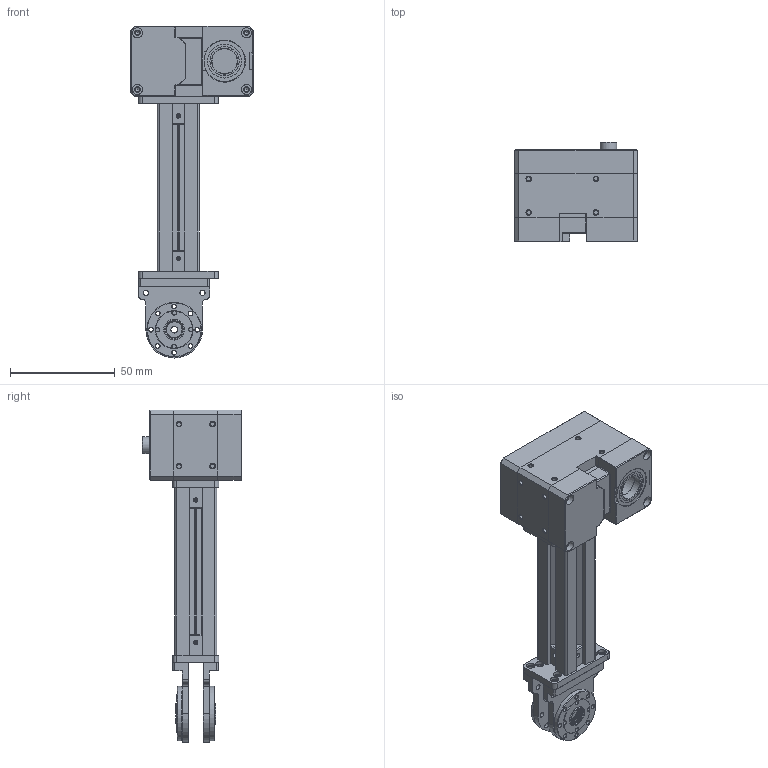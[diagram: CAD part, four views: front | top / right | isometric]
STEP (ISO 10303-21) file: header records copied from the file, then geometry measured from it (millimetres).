
FILE_DESCRIPTION(/* description */ (''),/* implementation_level */ '2;1');
FILE_NAME(/* name */ 'C:\Users\robos\OneDrive\ドキュメント\Inventor\OpenMANIPULATOR\OpenMANIPULATOR-MAX\urdf変換\om-max_link3.stp',/* time_stamp */ '2020-11-05T01:53:02+09:00',/* author */ ('Y.Shibata'),/* organization */ (''),/* preprocessor_version */ 'ST-DEVELOPER v15.2',/* originating_system */ 'Autodesk Inventor 2014',/* authorisation */ '');
FILE_SCHEMA (('AUTOMOTIVE_DESIGN { 1 0 10303 214 3 1 1 }'));
Length unit declared in the file: millimetre
Products named in the file (7): HN13_N101; om-max-id13-1_pitch_arm; FJ13-ALF5; (5シリーズ)HFS5-2020-80; XM540-W270; BEARING_F6701ZZ; om-max_link3
Assembly tree (9 placements, depth 2):
  om-max_link3
    HN13_N101  x2
    om-max-id13-1_pitch_arm  x2
    FJ13-ALF5  x2
    (5シリーズ)HFS5-2020-80
    XM540-W270
    BEARING_F6701ZZ
Bounding box: 58.5 x 47.6 x 158.25 mm (x, y, z)
Volume: 110058.3 mm3; surface area: 52406.4 mm2
Topology: 27 solids, 28 shells, 1137 faces, 3003 edges, 1963 vertices
Faces by surface type: plane 565, cylinder 438, cone 108, sphere 15, torus 7, bspline 4
Full cylindrical faces by diameter (mm): 2 x8, 2.013 x20, 2.05 x48, 2.5 x45, 2.6 x8, 3.2 x2, 4 x24, 4.2 x1, 4.8 x8, 5.1 x2, 8 x1, 9.9 x2, 10 x2, 10.1 x2, 12 x1, 13.92 x4, 14 x1, 16.08 x3, 16.613 x1, 18 x2, 18.2 x1, 19.5 x1, 26 x2
Entity records: 22298 total; most frequent: CARTESIAN_POINT 4674, DIRECTION 3573, ORIENTED_EDGE 3270, EDGE_CURVE 1635, AXIS2_PLACEMENT_3D 1323, VERTEX_POINT 1192, EDGE_LOOP 1115, LINE 927
